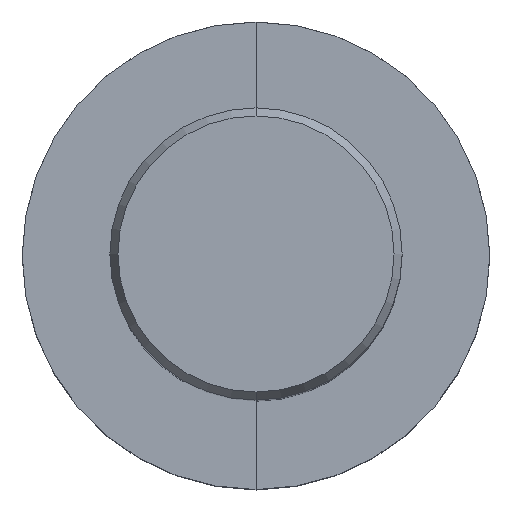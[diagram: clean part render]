
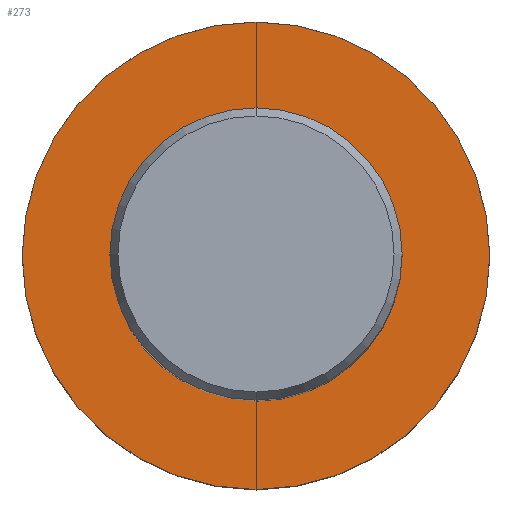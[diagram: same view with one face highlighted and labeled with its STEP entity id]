
A CAD part, top view. The second image highlights one B-rep face of the part: STEP entity #273.
In plain terms, the highlighted planar face has unit normal (0, 0, 1).
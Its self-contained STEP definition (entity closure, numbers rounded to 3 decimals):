
#229=EDGE_CURVE('',#239,#323,#617,.T.);
#239=VERTEX_POINT('',#628);
#273=ADVANCED_FACE('',(#666,#667),#668,.T.);
#301=VERTEX_POINT('',#700);
#323=VERTEX_POINT('',#724);
#339=EDGE_CURVE('',#455,#301,#741,.T.);
#413=EDGE_CURVE('',#323,#239,#822,.T.);
#429=EDGE_CURVE('',#301,#455,#841,.T.);
#455=VERTEX_POINT('',#872);
#617=CIRCLE('',#1052,9.5);
#628=CARTESIAN_POINT('',(0.0,9.5,-90.0));
#666=FACE_OUTER_BOUND('',#1207,.T.);
#667=FACE_BOUND('',#1208,.T.);
#668=PLANE('',#1209);
#700=CARTESIAN_POINT('',(0.,-19.995,-90.0));
#724=CARTESIAN_POINT('',(0.,-9.5,-90.0));
#741=CIRCLE('',#1317,19.995);
#822=CIRCLE('',#1475,9.5);
#841=CIRCLE('',#1499,19.995);
#872=CARTESIAN_POINT('',(0.0,19.995,-90.0));
#1052=AXIS2_PLACEMENT_3D('',#1952,#1953,#1954);
#1207=EDGE_LOOP('',(#2014,#2015));
#1208=EDGE_LOOP('',(#2016,#2017));
#1209=AXIS2_PLACEMENT_3D('',#2018,#2019,#2020);
#1317=AXIS2_PLACEMENT_3D('',#2106,#2107,#2108);
#1475=AXIS2_PLACEMENT_3D('',#2194,#2195,#2196);
#1499=AXIS2_PLACEMENT_3D('',#2229,#2230,#2231);
#1952=CARTESIAN_POINT('',(0.0,0.0,-90.0));
#1953=DIRECTION('',(0.0,0.0,-1.0));
#1954=DIRECTION('',(0.0,1.0,0.0));
#2014=ORIENTED_EDGE('',*,*,#339,.F.);
#2015=ORIENTED_EDGE('',*,*,#429,.F.);
#2016=ORIENTED_EDGE('',*,*,#229,.T.);
#2017=ORIENTED_EDGE('',*,*,#413,.T.);
#2018=CARTESIAN_POINT('',(0.0,14.747,-90.0));
#2019=DIRECTION('',(-0.0,0.0,1.0));
#2020=DIRECTION('',(0.0,-1.0,0.0));
#2106=CARTESIAN_POINT('',(0.0,0.0,-90.0));
#2107=DIRECTION('',(0.0,0.0,-1.0));
#2108=DIRECTION('',(0.0,1.0,0.0));
#2194=CARTESIAN_POINT('',(0.0,0.0,-90.0));
#2195=DIRECTION('',(0.0,0.0,-1.0));
#2196=DIRECTION('',(0.0,1.0,0.0));
#2229=CARTESIAN_POINT('',(0.0,0.0,-90.0));
#2230=DIRECTION('',(0.0,0.0,-1.0));
#2231=DIRECTION('',(0.0,1.0,0.0));
